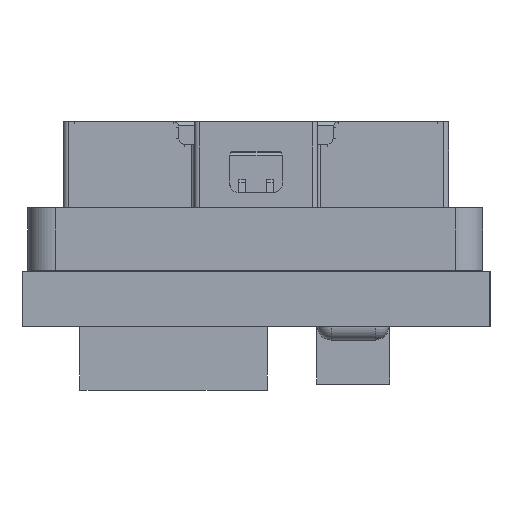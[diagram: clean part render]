
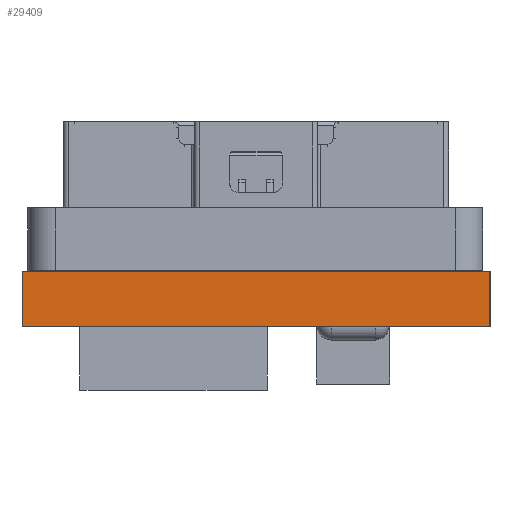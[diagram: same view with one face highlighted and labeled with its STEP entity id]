
A CAD part, left-side view. The second image highlights one B-rep face of the part: STEP entity #29409.
In plain terms, the highlighted planar face has unit normal (-1, 0, 0).
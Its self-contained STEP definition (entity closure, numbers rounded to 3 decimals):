
#656 = CARTESIAN_POINT ( 'NONE',  ( -4., 20.7, -1.333 ) ) ;
#907 = CARTESIAN_POINT ( 'NONE',  ( -4., 3.7, -2. ) ) ;
#3021 = VERTEX_POINT ( 'NONE', #25643 ) ;
#3792 = ORIENTED_EDGE ( 'NONE', *, *, #7974, .F. ) ;
#4665 = CARTESIAN_POINT ( 'NONE',  ( -4., 3.7, -1.333 ) ) ;
#6657 = ORIENTED_EDGE ( 'NONE', *, *, #18150, .T. ) ;
#7974 = EDGE_CURVE ( 'NONE', #3021, #23951, #16342, .T. ) ;
#9022 = EDGE_LOOP ( 'NONE', ( #27974, #3792, #12849, #6657 ) ) ;
#9321 = CARTESIAN_POINT ( 'NONE',  ( -4., 3.7, 0. ) ) ;
#9817 = CARTESIAN_POINT ( 'NONE',  ( -4., 3.7, -2. ) ) ;
#10804 = B_SPLINE_CURVE_WITH_KNOTS ( 'NONE', 3,
 ( #28401, #31427, #4665, #9817 ),
 .UNSPECIFIED., .F., .F.,
 ( 4, 4 ),
 ( 0., 1. ),
 .UNSPECIFIED. ) ;
#12849 = ORIENTED_EDGE ( 'NONE', *, *, #28211, .F. ) ;
#13900 = CARTESIAN_POINT ( 'NONE',  ( -4., 3.7, 0. ) ) ;
#14274 = CARTESIAN_POINT ( 'NONE',  ( -4., 9.367, 0. ) ) ;
#14632 = CARTESIAN_POINT ( 'NONE',  ( -4., 20.7, 0. ) ) ;
#16342 = B_SPLINE_CURVE_WITH_KNOTS ( 'NONE', 3,
 ( #907, #27641, #19336, #30835 ),
 .UNSPECIFIED., .F., .F.,
 ( 4, 4 ),
 ( 0., 1. ),
 .UNSPECIFIED. ) ;
#16383 = CARTESIAN_POINT ( 'NONE',  ( -4., 20.7, -2. ) ) ;
#17695 = FACE_OUTER_BOUND ( 'NONE', #9022, .T. ) ;
#18150 = EDGE_CURVE ( 'NONE', #29683, #18564, #32120, .T. ) ;
#18564 = VERTEX_POINT ( 'NONE', #21314 ) ;
#19336 = CARTESIAN_POINT ( 'NONE',  ( -4., 15.033, -2. ) ) ;
#20356 = CARTESIAN_POINT ( 'NONE',  ( -4., 3.7, -2. ) ) ;
#21314 = CARTESIAN_POINT ( 'NONE',  ( -4., 20.7, 0. ) ) ;
#23951 = VERTEX_POINT ( 'NONE', #16383 ) ;
#25132 = DIRECTION ( 'NONE',  ( -1., 0., 0. ) ) ;
#25643 = CARTESIAN_POINT ( 'NONE',  ( -4., 3.7, -2. ) ) ;
#25790 = CARTESIAN_POINT ( 'NONE',  ( -4., 20.7, 0. ) ) ;
#26905 = EDGE_CURVE ( 'NONE', #23951, #18564, #27710, .T. ) ;
#27641 = CARTESIAN_POINT ( 'NONE',  ( -4., 9.367, -2. ) ) ;
#27710 = B_SPLINE_CURVE_WITH_KNOTS ( 'NONE', 3,
 ( #33770, #656, #27749, #14632 ),
 .UNSPECIFIED., .F., .F.,
 ( 4, 4 ),
 ( 0., 1. ),
 .UNSPECIFIED. ) ;
#27749 = CARTESIAN_POINT ( 'NONE',  ( -4., 20.7, -0.667 ) ) ;
#27974 = ORIENTED_EDGE ( 'NONE', *, *, #26905, .F. ) ;
#28211 = EDGE_CURVE ( 'NONE', #29683, #3021, #10804, .T. ) ;
#28401 = CARTESIAN_POINT ( 'NONE',  ( -4., 3.7, 0. ) ) ;
#29409 = ADVANCED_FACE ( 'NONE', ( #17695 ), #33272, .T. ) ;
#29683 = VERTEX_POINT ( 'NONE', #13900 ) ;
#30619 = DIRECTION ( 'NONE',  ( 0., 0., 1. ) ) ;
#30835 = CARTESIAN_POINT ( 'NONE',  ( -4., 20.7, -2. ) ) ;
#31427 = CARTESIAN_POINT ( 'NONE',  ( -4., 3.7, -0.667 ) ) ;
#31828 = AXIS2_PLACEMENT_3D ( 'NONE', #20356, #25132, #30619 ) ;
#32120 = B_SPLINE_CURVE_WITH_KNOTS ( 'NONE', 3,
 ( #9321, #14274, #33403, #25790 ),
 .UNSPECIFIED., .F., .F.,
 ( 4, 4 ),
 ( 0., 1. ),
 .UNSPECIFIED. ) ;
#33272 = PLANE ( 'NONE',  #31828 ) ;
#33403 = CARTESIAN_POINT ( 'NONE',  ( -4., 15.033, 0. ) ) ;
#33770 = CARTESIAN_POINT ( 'NONE',  ( -4., 20.7, -2. ) ) ;
